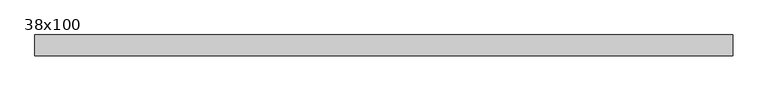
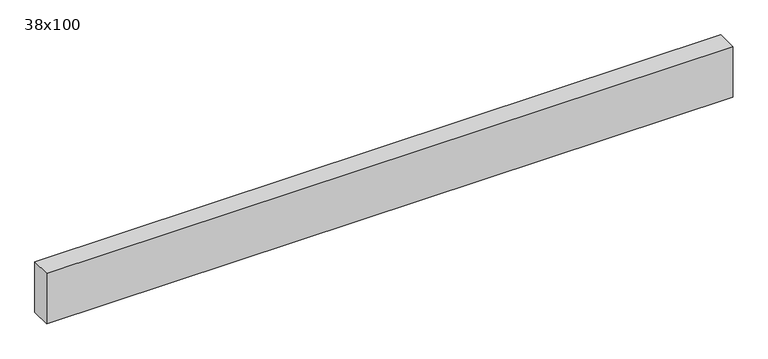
"""IFC4 building model written with IfcOpenShell, lengths in millimetres: beam geometry, Poutre - Bois de construction de dimensions courantes : 38x100."""

from ifc_helpers import new_model, si_unit, frame, origin, place, context, project, spatial, polyline, outline, extrude, source, transform, mapped, element, save


def beam_38x100_0f094f28(model_context):
    return source(origin(), model_context, "Body", "SweptSolid", [
        extrude(outline(polyline([(636.0, 19.05), (636.0, -19.05), (-650.0, -19.05), (-650.0, 19.05), (636.0, 19.05)])), frame((0.0, 0.0, -50.0), z_axis=(0.0, 0.0, 1.0), x_axis=(1.0, 0.0, 0.0)), (0.0, 0.0, 1.0), 100.0),
    ])


if __name__ == "__main__":
    model = new_model("IFC4")
    model_context = context("Model", 3, world=origin())
    ifc_project = project(units=[si_unit("LENGTHUNIT", "METRE", prefix="MILLI")], contexts=[model_context])
    site = spatial("IfcSite", under=ifc_project)
    building = spatial("IfcBuilding", under=site)
    placement = place(None, origin())
    beam_38x100_shape = beam_38x100_0f094f28(model_context)
    element("IfcBeam", 1, ObjectType="Poutre - Bois de construction de dimensions courantes : 38x100", at=placement, inside=building, context=model_context, shape_type="MappedRepresentation", body=[
        mapped(beam_38x100_shape, transform((0.0, 0.0, 0.0), x_axis=(1.0, 0.0, 0.0), y_axis=(0.0, 1.0, 0.0), z_axis=(0.0, 0.0, 1.0))),
    ])
    save(model, "model.ifc")
